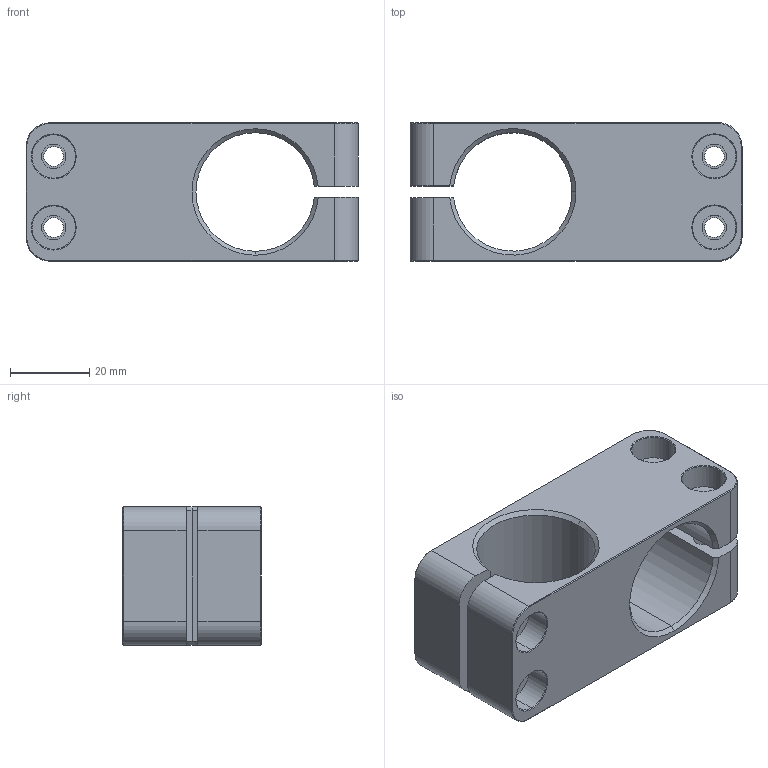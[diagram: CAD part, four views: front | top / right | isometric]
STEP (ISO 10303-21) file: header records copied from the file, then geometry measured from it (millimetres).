
FILE_DESCRIPTION (( 'STEP AP203' ), '1' );
FILE_NAME ('SCD-3030.STEP', '2024-02-22T01:09:06', ( '微软用户' ), ( '微软中国' ), 'SwSTEP 2.0', 'SolidWorks 2018', '' );
FILE_SCHEMA (( 'CONFIG_CONTROL_DESIGN' ));
Length unit declared in the file: millimetre
Products named in the file (1): SCD-3030
Bounding box: 84 x 35 x 35 mm (x, y, z)
Volume: 45120.6 mm3; surface area: 20509 mm2
Topology: 1 solids, 1 shells, 94 faces, 227 edges, 139 vertices
Faces by surface type: cylinder 37, cone 33, plane 24
Entity records: 2859 total; most frequent: DIRECTION 516, CARTESIAN_POINT 485, ORIENTED_EDGE 454, EDGE_CURVE 227, AXIS2_PLACEMENT_3D 202, VERTEX_POINT 139, EDGE_LOOP 114, LINE 112
